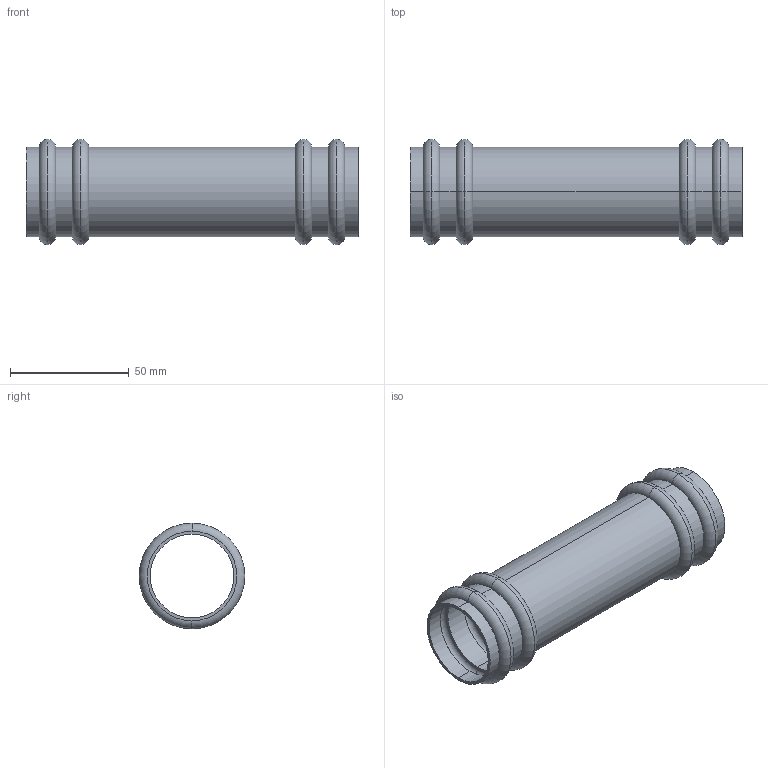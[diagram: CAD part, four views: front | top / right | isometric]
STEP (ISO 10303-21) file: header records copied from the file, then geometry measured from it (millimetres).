
FILE_DESCRIPTION(('starvars output'),'1');
FILE_NAME('cv20240704100445000032533.stp','10:04:45 2024/07/04',('Thomas Industrial Network Germany GmbH'),(' '),'Spatial InterOp 3D',' ',' ');
FILE_SCHEMA(('AUTOMOTIVE_DESIGN { 1 0 10303 214 3 1 1 }'));
Length unit declared in the file: millimetre
Products named in the file (1): 1
Bounding box: 140 x 44.5 x 44.5 mm (x, y, z)
Volume: 22744.1 mm3; surface area: 37512.4 mm2
Topology: 1 solids, 1 shells, 70 faces, 140 edges, 88 vertices
Faces by surface type: torus 32, cylinder 20, plane 18
Entity records: 2464 total; most frequent: DIRECTION 402, CARTESIAN_POINT 299, ORIENTED_EDGE 280, AXIS2_PLACEMENT_3D 191, EDGE_CURVE 140, CIRCLE 120, EDGE_LOOP 88, VERTEX_POINT 88
